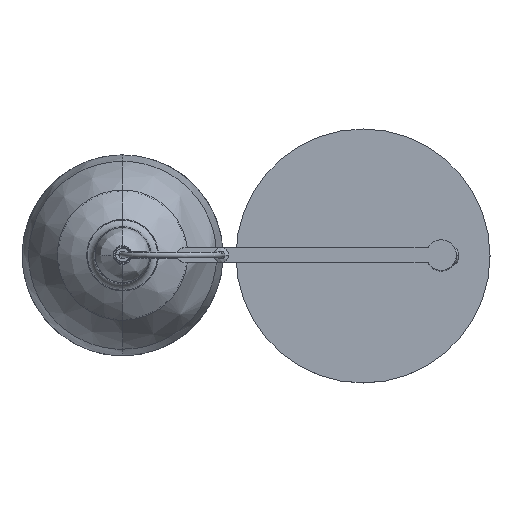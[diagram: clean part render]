
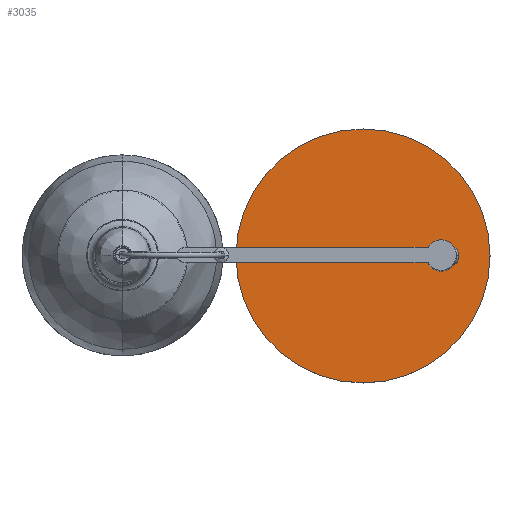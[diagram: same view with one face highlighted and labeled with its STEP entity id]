
A CAD part, top view. The second image highlights one B-rep face of the part: STEP entity #3035.
In plain terms, the highlighted planar face has unit normal (0, 0, 1).
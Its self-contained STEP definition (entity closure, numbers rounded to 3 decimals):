
#25=FACE_BOUND('',#876,.T.);
#130=PLANE('',#3234);
#196=CIRCLE('',#3224,125.);
#198=CIRCLE('',#3227,125.);
#202=CIRCLE('',#3235,15.);
#203=CIRCLE('',#3236,15.);
#672=FACE_OUTER_BOUND('',#875,.T.);
#875=EDGE_LOOP('',(#2584,#2585));
#876=EDGE_LOOP('',(#2586,#2587));
#1380=VERTEX_POINT('',#8933);
#1381=VERTEX_POINT('',#8934);
#1390=VERTEX_POINT('',#9150);
#1391=VERTEX_POINT('',#9151);
#1777=EDGE_CURVE('',#1380,#1381,#196,.T.);
#1781=EDGE_CURVE('',#1381,#1380,#198,.T.);
#1793=EDGE_CURVE('',#1390,#1391,#202,.T.);
#1794=EDGE_CURVE('',#1391,#1390,#203,.T.);
#2584=ORIENTED_EDGE('',*,*,#1781,.T.);
#2585=ORIENTED_EDGE('',*,*,#1777,.T.);
#2586=ORIENTED_EDGE('',*,*,#1793,.F.);
#2587=ORIENTED_EDGE('',*,*,#1794,.F.);
#3035=ADVANCED_FACE('',(#672,#25),#130,.T.);
#3224=AXIS2_PLACEMENT_3D('',#8935,#3634,#3635);
#3227=AXIS2_PLACEMENT_3D('',#8942,#3642,#3643);
#3234=AXIS2_PLACEMENT_3D('',#9149,#3658,#3659);
#3235=AXIS2_PLACEMENT_3D('',#9152,#3660,#3661);
#3236=AXIS2_PLACEMENT_3D('',#9153,#3662,#3663);
#3634=DIRECTION('center_axis',(0.,0.,1.));
#3635=DIRECTION('ref_axis',(1.,0.,0.));
#3642=DIRECTION('center_axis',(0.,0.,1.));
#3643=DIRECTION('ref_axis',(1.,0.,0.));
#3658=DIRECTION('center_axis',(0.,0.,1.));
#3659=DIRECTION('ref_axis',(0.,1.,0.));
#3660=DIRECTION('center_axis',(0.,0.,1.));
#3661=DIRECTION('ref_axis',(1.,0.,0.));
#3662=DIRECTION('center_axis',(0.,0.,1.));
#3663=DIRECTION('ref_axis',(1.,0.,0.));
#8933=CARTESIAN_POINT('',(125.,0.,21.));
#8934=CARTESIAN_POINT('',(-125.,0.,21.));
#8935=CARTESIAN_POINT('Origin',(0.,0.,21.));
#8942=CARTESIAN_POINT('Origin',(0.,0.,21.));
#9149=CARTESIAN_POINT('Origin',(125.,0.,21.));
#9150=CARTESIAN_POINT('',(62.,0.,21.));
#9151=CARTESIAN_POINT('',(92.,0.,21.));
#9152=CARTESIAN_POINT('Origin',(77.,0.,21.));
#9153=CARTESIAN_POINT('Origin',(77.,0.,21.));
